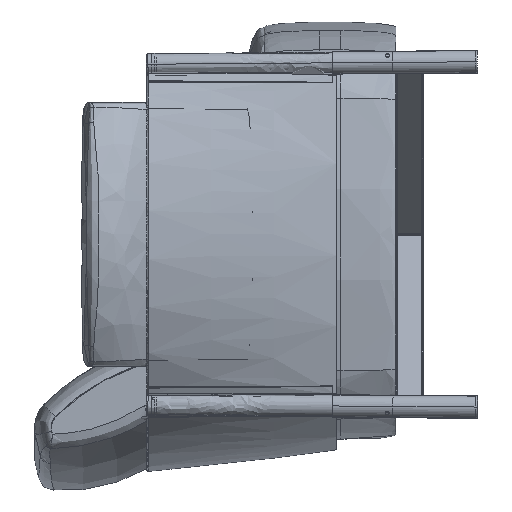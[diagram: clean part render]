
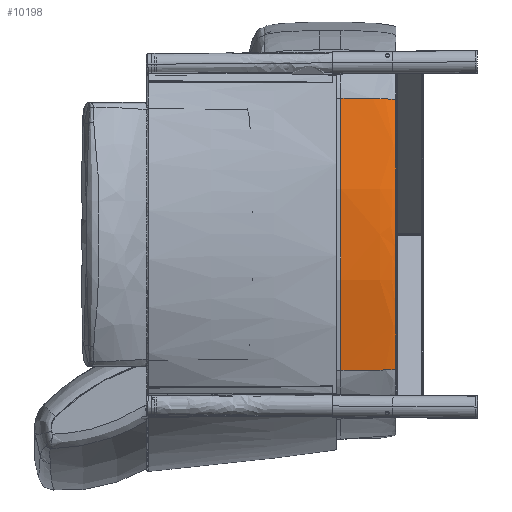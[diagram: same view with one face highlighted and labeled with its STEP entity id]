
A CAD part, left-side view. The second image highlights one B-rep face of the part: STEP entity #10198.
In plain terms, the highlighted free-form (B-spline) face has degree [2, 3] with [3, 10] control points.
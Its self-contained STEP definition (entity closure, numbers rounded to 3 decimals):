
#301 = B_SPLINE_CURVE_WITH_KNOTS ( 'NONE', 3,
 ( #44240, #15563, #25734, #49774, #30060, #39920, #26349, #54360, #26045, #34390 ),
 .UNSPECIFIED., .F., .F.,
 ( 4, 2, 2, 2, 4 ),
 ( 0., 0.25, 0.5, 0.75, 1. ),
 .UNSPECIFIED. ) ;
#868 = CARTESIAN_POINT ( 'NONE',  ( 1079.624, 0., -164.903 ) ) ;
#2085 = CARTESIAN_POINT ( 'NONE',  ( 1089.516, 0., -166.416 ) ) ;
#3500 = CARTESIAN_POINT ( 'NONE',  ( 1091.375, 0., 41.404 ) ) ;
#4640 = CARTESIAN_POINT ( 'NONE',  ( 1079.619, 0., 164.947 ) ) ;
#5506 = CARTESIAN_POINT ( 'NONE',  ( 1072.994, 100., -248.277 ) ) ;
#6701 = EDGE_CURVE ( 'NONE', #40094, #30243, #22193, .T. ) ;
#6745 = CARTESIAN_POINT ( 'NONE',  ( 1089.516, 0., 166.416 ) ) ;
#9882 = CARTESIAN_POINT ( 'NONE',  ( 1089.024, 0., 82.675 ) ) ;
#10136 = CARTESIAN_POINT ( 'NONE',  ( 1082.413, 100., -207.614 ) ) ;
#10198 = ADVANCED_FACE ( 'NONE', ( #38824 ), #56379, .T. ) ;
#10745 = CARTESIAN_POINT ( 'NONE',  ( 1101.375, 100., 41.739 ) ) ;
#11373 = CARTESIAN_POINT ( 'NONE',  ( 1101.375, 0., 41.739 ) ) ;
#11707 = CARTESIAN_POINT ( 'NONE',  ( 1072.994, 100., 248.277 ) ) ;
#12873 = CARTESIAN_POINT ( 'NONE',  ( 1063.252, 0., -246.02 ) ) ;
#14754 = CARTESIAN_POINT ( 'NONE',  ( 1063.252, 0., 246.02 ) ) ;
#15067 = CARTESIAN_POINT ( 'NONE',  ( 1091.375, 0., 41.36 ) ) ;
#15563 = CARTESIAN_POINT ( 'NONE',  ( 1082.413, 100., 207.614 ) ) ;
#15987 = CARTESIAN_POINT ( 'NONE',  ( 1072.994, 0., 248.277 ) ) ;
#17377 = CARTESIAN_POINT ( 'NONE',  ( 1063.252, 0., 246.02 ) ) ;
#18950 = ORIENTED_EDGE ( 'NONE', *, *, #46142, .F. ) ;
#19685 = CARTESIAN_POINT ( 'NONE',  ( 1072.586, 0., -205.727 ) ) ;
#19774 = CARTESIAN_POINT ( 'NONE',  ( 1072.994, 100., -248.277 ) ) ;
#20368 = B_SPLINE_CURVE_WITH_KNOTS ( 'NONE', 3,
 ( #51803, #45469, #56431, #37366, #46911, #3500, #9882, #4640, #23475, #17377 ),
 .UNSPECIFIED., .F., .F.,
 ( 4, 2, 2, 2, 4 ),
 ( 0., 0.25, 0.5, 0.75, 1. ),
 .UNSPECIFIED. ) ;
#20906 = CARTESIAN_POINT ( 'NONE',  ( 1082.413, 0., -207.614 ) ) ;
#21449 = EDGE_CURVE ( 'NONE', #30909, #39397, #35708, .T. ) ;
#21752 = CARTESIAN_POINT ( 'NONE',  ( 1072.994, 100., -248.277 ) ) ;
#22193 =( BOUNDED_CURVE ( )  B_SPLINE_CURVE ( 2, ( #31546, #55558, #55250 ),
 .UNSPECIFIED., .F., .T. ) 
 B_SPLINE_CURVE_WITH_KNOTS ( ( 3, 3 ),
 ( 0., 1. ),
 .UNSPECIFIED. ) 
 CURVE ( )  GEOMETRIC_REPRESENTATION_ITEM ( )  RATIONAL_B_SPLINE_CURVE ( ( 1., 0.707, 1. ) ) 
 REPRESENTATION_ITEM ( '' )  );
#23475 = CARTESIAN_POINT ( 'NONE',  ( 1072.596, 0., 205.683 ) ) ;
#24427 = CARTESIAN_POINT ( 'NONE',  ( 1072.994, 0., -248.277 ) ) ;
#25250 = CARTESIAN_POINT ( 'NONE',  ( 1098.997, 100., 83.478 ) ) ;
#25463 = CARTESIAN_POINT ( 'NONE',  ( 1063.252, 0., 246.02 ) ) ;
#25558 = CARTESIAN_POINT ( 'NONE',  ( 1101.375, 0., -41.739 ) ) ;
#25734 = CARTESIAN_POINT ( 'NONE',  ( 1089.516, 100., 166.416 ) ) ;
#26045 = CARTESIAN_POINT ( 'NONE',  ( 1082.413, 100., -207.614 ) ) ;
#26349 = CARTESIAN_POINT ( 'NONE',  ( 1098.997, 100., -83.478 ) ) ;
#26734 = ORIENTED_EDGE ( 'NONE', *, *, #21449, .T. ) ;
#27907 = EDGE_CURVE ( 'NONE', #30909, #40094, #20368, .T. ) ;
#28948 = CARTESIAN_POINT ( 'NONE',  ( 1089.019, 0., 82.719 ) ) ;
#30060 = CARTESIAN_POINT ( 'NONE',  ( 1101.375, 100., 41.739 ) ) ;
#30143 = CARTESIAN_POINT ( 'NONE',  ( 1063.252, 0., -246.02 ) ) ;
#30243 = VERTEX_POINT ( 'NONE', #11707 ) ;
#30909 = VERTEX_POINT ( 'NONE', #30143 ) ;
#31213 = ORIENTED_EDGE ( 'NONE', *, *, #6701, .F. ) ;
#31546 = CARTESIAN_POINT ( 'NONE',  ( 1063.252, 0., 246.02 ) ) ;
#33574 = CARTESIAN_POINT ( 'NONE',  ( 1072.586, 0., 205.727 ) ) ;
#34196 = CARTESIAN_POINT ( 'NONE',  ( 1082.413, 100., 207.614 ) ) ;
#34390 = CARTESIAN_POINT ( 'NONE',  ( 1072.994, 100., -248.277 ) ) ;
#34810 = CARTESIAN_POINT ( 'NONE',  ( 1082.413, 0., 207.614 ) ) ;
#35708 =( BOUNDED_CURVE ( )  B_SPLINE_CURVE ( 2, ( #38300, #24427, #19774 ),
 .UNSPECIFIED., .F., .T. ) 
 B_SPLINE_CURVE_WITH_KNOTS ( ( 3, 3 ),
 ( 0., 1. ),
 .UNSPECIFIED. ) 
 CURVE ( )  GEOMETRIC_REPRESENTATION_ITEM ( )  RATIONAL_B_SPLINE_CURVE ( ( 1., 0.707, 1. ) ) 
 REPRESENTATION_ITEM ( '' )  );
#36427 = ORIENTED_EDGE ( 'NONE', *, *, #27907, .F. ) ;
#37366 = CARTESIAN_POINT ( 'NONE',  ( 1089.024, 0., -82.675 ) ) ;
#38300 = CARTESIAN_POINT ( 'NONE',  ( 1063.252, 0., -246.02 ) ) ;
#38824 = FACE_OUTER_BOUND ( 'NONE', #58418, .T. ) ;
#39397 = VERTEX_POINT ( 'NONE', #21752 ) ;
#39436 = CARTESIAN_POINT ( 'NONE',  ( 1072.994, 100., 248.277 ) ) ;
#39738 = CARTESIAN_POINT ( 'NONE',  ( 1072.994, 0., -248.277 ) ) ;
#39920 = CARTESIAN_POINT ( 'NONE',  ( 1101.375, 100., -41.739 ) ) ;
#40094 = VERTEX_POINT ( 'NONE', #25463 ) ;
#43131 = CARTESIAN_POINT ( 'NONE',  ( 1089.019, 0., -82.719 ) ) ;
#44060 = CARTESIAN_POINT ( 'NONE',  ( 1098.997, 100., -83.478 ) ) ;
#44240 = CARTESIAN_POINT ( 'NONE',  ( 1072.994, 100., 248.277 ) ) ;
#44358 = CARTESIAN_POINT ( 'NONE',  ( 1098.997, 0., -83.478 ) ) ;
#45469 = CARTESIAN_POINT ( 'NONE',  ( 1072.596, 0., -205.684 ) ) ;
#46142 = EDGE_CURVE ( 'NONE', #30243, #39397, #301, .T. ) ;
#46911 = CARTESIAN_POINT ( 'NONE',  ( 1091.375, 0., -41.404 ) ) ;
#47769 = CARTESIAN_POINT ( 'NONE',  ( 1091.375, 0., -41.36 ) ) ;
#49774 = CARTESIAN_POINT ( 'NONE',  ( 1098.997, 100., 83.478 ) ) ;
#51803 = CARTESIAN_POINT ( 'NONE',  ( 1063.252, 0., -246.02 ) ) ;
#52357 = CARTESIAN_POINT ( 'NONE',  ( 1079.624, 0., 164.903 ) ) ;
#52975 = CARTESIAN_POINT ( 'NONE',  ( 1089.516, 100., 166.416 ) ) ;
#53590 = CARTESIAN_POINT ( 'NONE',  ( 1098.997, 0., 83.478 ) ) ;
#54360 = CARTESIAN_POINT ( 'NONE',  ( 1089.516, 100., -166.416 ) ) ;
#55250 = CARTESIAN_POINT ( 'NONE',  ( 1072.994, 100., 248.277 ) ) ;
#55558 = CARTESIAN_POINT ( 'NONE',  ( 1072.994, 0., 248.277 ) ) ;
#56379 =( BOUNDED_SURFACE ( )  B_SPLINE_SURFACE ( 2, 3, ( 
 ( #39436, #34196, #52975, #25250, #10745, #58209, #44060, #57287, #10136, #5506 ),
 ( #15987, #34810, #6745, #53590, #11373, #25558, #44358, #2085, #20906, #39738 ),
 ( #14754, #33574, #52357, #28948, #15067, #47769, #43131, #868, #19685, #12873 ) ),
 .UNSPECIFIED., .F., .F., .T. ) 
 B_SPLINE_SURFACE_WITH_KNOTS ( ( 3, 3 ),
 ( 4, 2, 2, 2, 4 ),
 ( 0., 1. ),
 ( 1.343, 1.457, 1.571, 1.685, 1.798 ),
 .UNSPECIFIED. ) 
 GEOMETRIC_REPRESENTATION_ITEM ( )  RATIONAL_B_SPLINE_SURFACE ( (
 ( 1., 1., 1., 1., 1., 1., 1., 1., 1., 1.),
 ( 0.707, 0.707, 0.707, 0.707, 0.707, 0.707, 0.707, 0.707, 0.707, 0.707),
 ( 1., 1., 1., 1., 1., 1., 1., 1., 1., 1.) ) ) 
 REPRESENTATION_ITEM ( '' )  SURFACE ( )  );
#56431 = CARTESIAN_POINT ( 'NONE',  ( 1079.619, 0., -164.947 ) ) ;
#57287 = CARTESIAN_POINT ( 'NONE',  ( 1089.516, 100., -166.416 ) ) ;
#58209 = CARTESIAN_POINT ( 'NONE',  ( 1101.375, 100., -41.739 ) ) ;
#58418 = EDGE_LOOP ( 'NONE', ( #26734, #18950, #31213, #36427 ) ) ;
